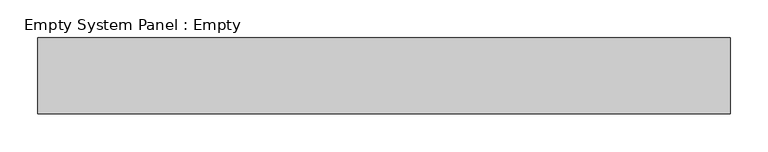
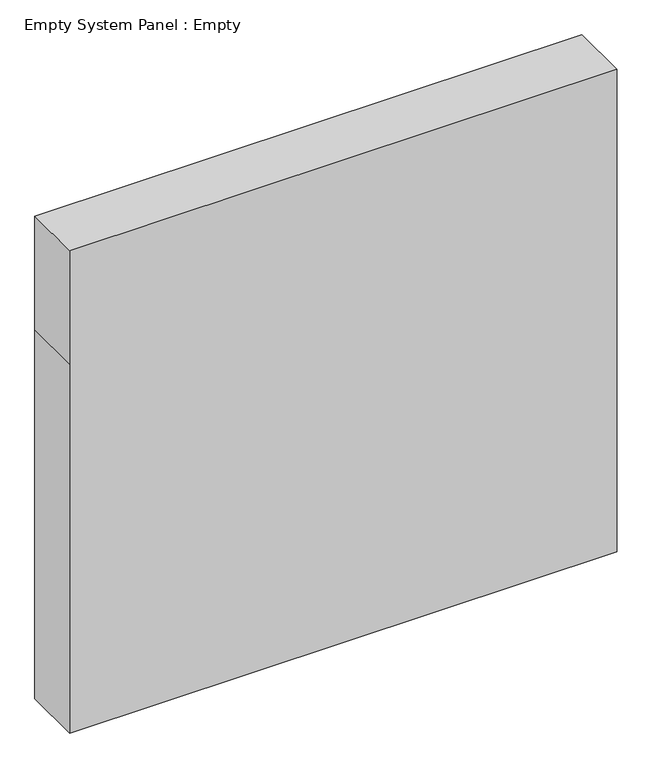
"""IFC4 building model written with IfcOpenShell, lengths in millimetres: plate geometry, Empty System Panel : Empty."""

from ifc_helpers import new_model, si_unit, frame, origin, place, context, project, spatial, polyline, outline, extrude, source, transform, mapped, element, save


def empty_system_panel_empty_630b4419(model_context):
    return source(origin(), model_context, "Body", "SweptSolid", [
        extrude(outline(polyline([(0.0, -456.25), (0.0, 456.25), (650.0, 456.25), (850.0, 456.25), (850.0, -456.25), (650.0, -456.25), (0.0, -456.25)])), frame((0.0, -50.0, 0.0), z_axis=(0.0, 1.0, 0.0), x_axis=(0.0, 0.0, 1.0)), (0.0, 0.0, 1.0), 100.0),
    ])


if __name__ == "__main__":
    model = new_model("IFC4")
    model_context = context("Model", 3, world=origin())
    ifc_project = project(units=[si_unit("LENGTHUNIT", "METRE", prefix="MILLI")], contexts=[model_context])
    site = spatial("IfcSite", under=ifc_project)
    building = spatial("IfcBuilding", under=site)
    placement = place(None, origin())
    empty_system_panel_empty_shape = empty_system_panel_empty_630b4419(model_context)
    element("IfcPlate", 1, ObjectType="Empty System Panel : Empty", at=placement, inside=building, context=model_context, shape_type="MappedRepresentation", body=[
        mapped(empty_system_panel_empty_shape, transform((0.0, 0.0, 0.0), x_axis=(1.0, 0.0, 0.0), y_axis=(0.0, 1.0, 0.0), z_axis=(0.0, 0.0, 1.0))),
    ])
    save(model, "model.ifc")
